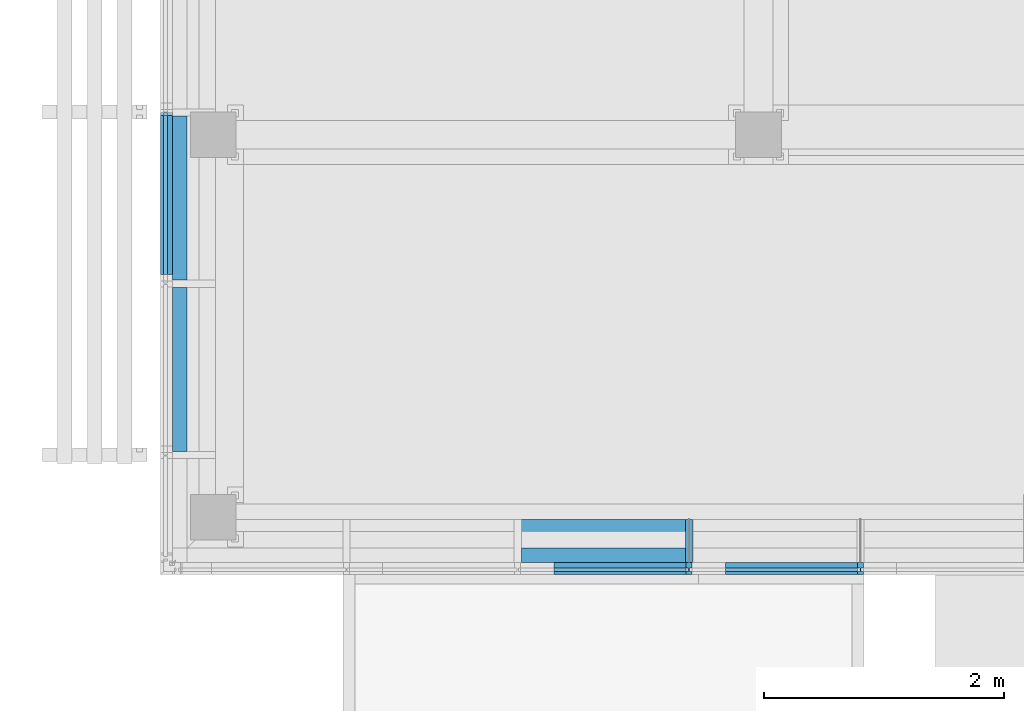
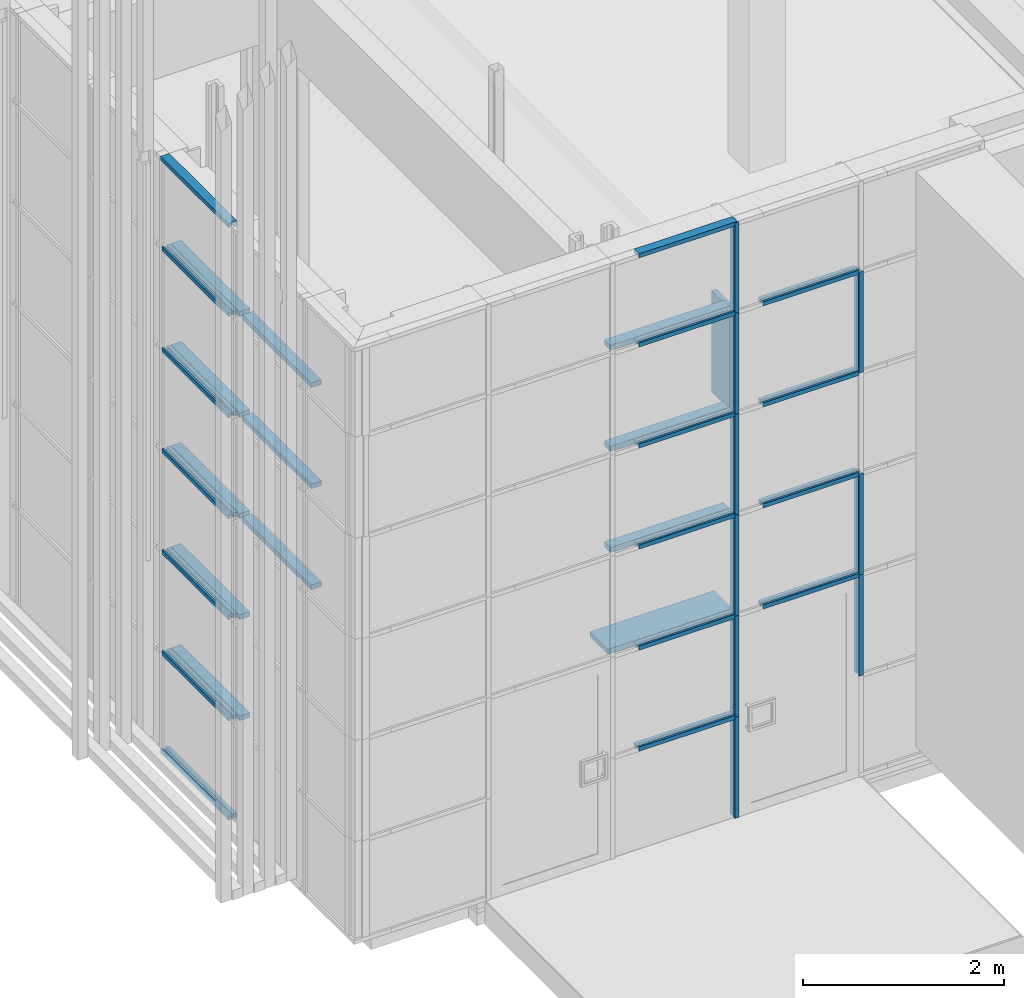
# One storey, part 9 of 260: 39 members, 2 elements without a shape of their own.
"""IFC2X3 building model written with IfcOpenShell, lengths in millimetres."""

from ifc_helpers import new_model, entity, si_unit, converted_unit, derived_unit, money_unit, direction, frame, origin_with_axes, place, context, subcontext, project, spatial, faceted_brep, source, transform, mapped, material, type_object, element, aggregate, save


model = new_model("IFC2X3")

# Units and contexts
model_context = context("Model", 3, precision=0.01, world=origin_with_axes(), true_north=direction((0.0, 1.0)))
body_context = subcontext(model_context, "Body", "Model", "MODEL_VIEW")
ifc_project = project(units=[si_unit("LENGTHUNIT", "METRE", prefix="MILLI"), si_unit("AREAUNIT", "SQUARE_METRE"), si_unit("VOLUMEUNIT", "CUBIC_METRE"), converted_unit("PLANEANGLEUNIT", "DEGREE", entity("IfcPlaneAngleMeasure", 0.0174532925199), si_unit("PLANEANGLEUNIT", "RADIAN"), dimensions=[0, 0, 0, 0, 0, 0, 0]), money_unit("EUR"), converted_unit("TIMEUNIT", "Year", entity("IfcTimeMeasure", 31556926.0), si_unit("TIMEUNIT", "SECOND"), dimensions=[0, 0, 1, 0, 0, 0, 0]), si_unit("MASSUNIT", "GRAM", prefix="KILO"), si_unit("THERMODYNAMICTEMPERATUREUNIT", "DEGREE_CELSIUS"), si_unit("LUMINOUSINTENSITYUNIT", "LUMEN"), si_unit("ENERGYUNIT", "JOULE", prefix="MEGA"), derived_unit("THERMALCONDUCTANCEUNIT", [(si_unit("POWERUNIT", "WATT"), 1), (si_unit("LENGTHUNIT", "METRE"), -1), (si_unit("THERMODYNAMICTEMPERATUREUNIT", "KELVIN"), -1)]), derived_unit("SPECIFICHEATCAPACITYUNIT", [(si_unit("ENERGYUNIT", "JOULE"), 1), (si_unit("MASSUNIT", "GRAM", prefix="KILO"), -1), (si_unit("THERMODYNAMICTEMPERATUREUNIT", "KELVIN"), -1)]), derived_unit("MASSDENSITYUNIT", [(si_unit("MASSUNIT", "GRAM", prefix="KILO"), 1), (si_unit("VOLUMEUNIT", "CUBIC_METRE"), -1)])], contexts=[model_context])

# Site, building, storey
site_placement = place(None, origin_with_axes())
site = spatial("IfcSite", under=ifc_project, at=site_placement, Name="Kolde pst 67a", CompositionType="ELEMENT")
building_placement = place(site_placement, origin_with_axes())
building = spatial("IfcBuilding", under=site, at=building_placement, Name="Riigigümnaasium", CompositionType="ELEMENT")
storey_placement = place(building_placement, origin_with_axes())
storey = spatial("IfcBuildingStorey", under=building, at=storey_placement, Name="1. korrus", CompositionType="ELEMENT", Elevation=0.0)

# Curtain wall, members
curtain_wall_type = type_object("IfcCurtainWallType", Name="Curtain Wall Type", PredefinedType="NOTDEFINED")
curtain_wall_1_placement = place(storey_placement, frame((47829.9854655, 8727.77020058, -0.000749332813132), z_axis=(0.0, 0.0, 1.0), x_axis=(1.0, 0.0, 0.0)))
curtain_wall_1 = element("IfcCurtainWall", 1, at=curtain_wall_1_placement, inside=storey, type_object=curtain_wall_type, Name="KLAASFASSAAD")
ifc_material_1 = material(Name="_METALL - alumiinium")
member_type_1 = type_object("IfcMemberType", Name="Transom Frame 50 x 100", PredefinedType="MEMBER")
shared_shape_1 = source(origin_with_axes(), body_context, "Body", "Brep", [
    faceted_brep([(5.0, -16.5, 1127.09166949), (5.0, 16.5, 1127.09166949), (25.0, 16.5, 1127.09166949), (25.0, 40.0, 1127.09166949), (-25.0, 40.0, 1127.09166949), (-25.0, 16.5, 1127.09166949), (-5.0, 16.5, 1127.09166949), (-5.0, -16.5, 1127.09166949), (-25.0, -16.5, 1127.09166949), (-25.0, -60.0, 1127.09166949), (25.0, -60.0, 1127.09166949), (25.0, -16.5, 1127.09166949), (5.0, -16.5, 25.0), (5.0, 16.5, 25.0), (25.0, 16.5, 25.0), (25.0, 40.0, 25.0), (-25.0, 40.0, 25.0), (-25.0, 16.5, 25.0), (-5.0, 16.5, 25.0), (-5.0, -16.5, 25.0), (-25.0, -16.5, 25.0), (-25.0, -60.0, 25.0), (25.0, -60.0, 25.0), (25.0, -16.5, 25.0)], [[[0, 1, 2, 3, 4, 5, 6, 7, 8, 9, 10, 11]], [[0, 12, 13, 1]], [[1, 13, 14, 2]], [[14, 15, 3, 2]], [[4, 3, 15, 16]], [[17, 5, 4, 16]], [[5, 17, 18, 6]], [[7, 6, 18, 19]], [[8, 7, 19, 20]], [[8, 20, 21, 9]], [[10, 9, 21, 22]], [[11, 10, 22, 23]], [[11, 23, 12, 0]], [[13, 12, 23, 22, 21, 20, 19, 18, 17, 16, 15, 14]]]),
])
member_1_placement = place(curtain_wall_1_placement, frame((5800.65725263, -1457.77167136, 2460.00074933), z_axis=(-1.0, 2.70881142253e-07, 0.0), x_axis=(0.0, 0.0, 1.0)))
member_1 = element("IfcMember", 2, at=member_1_placement, type_object=member_type_1, material=ifc_material_1, Name="RF RAAM HOR-669", ObjectType="MEMBER", context=body_context, shape_type="MappedRepresentation", body=[
    mapped(shared_shape_1, transform((0.0, 0.0, 0.0), x_axis=(-1.0, 0.0, 0.0), y_axis=(0.0, -1.0, 0.0), z_axis=(0.0, 0.0, 1.0))),
])
member_2_placement = place(curtain_wall_1_placement, frame((5800.65725263, -1457.77167136, 3690.00074933), z_axis=(-1.0, 2.70881142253e-07, 0.0), x_axis=(0.0, 0.0, 1.0)))
member_2 = element("IfcMember", 3, at=member_2_placement, type_object=member_type_1, material=ifc_material_1, Name="RF RAAM HOR-701", ObjectType="MEMBER", context=body_context, shape_type="MappedRepresentation", body=[
    mapped(shared_shape_1, transform((0.0, 0.0, 0.0), x_axis=(-1.0, 0.0, 0.0), y_axis=(0.0, -1.0, 0.0), z_axis=(0.0, 0.0, 1.0))),
])
member_3_placement = place(curtain_wall_1_placement, frame((4370.65725263, -1457.771284, 3690.00074933), z_axis=(-1.0, 2.70881141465e-07, 0.0), x_axis=(0.0, 0.0, 1.0)))
member_3 = element("IfcMember", 4, at=member_3_placement, type_object=member_type_1, material=ifc_material_1, Name="RF RAAM HOR-702", ObjectType="MEMBER", context=body_context, shape_type="MappedRepresentation", body=[
    mapped(shared_shape_1, transform((0.0, 0.0, 0.0), x_axis=(-1.0, 0.0, 0.0), y_axis=(0.0, -1.0, 0.0), z_axis=(0.0, 0.0, 1.0))),
])
member_4_placement = place(curtain_wall_1_placement, frame((5800.65725263, -1457.77167136, 4920.00074933), z_axis=(-1.0, 2.70881142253e-07, 0.0), x_axis=(0.0, 0.0, 1.0)))
member_4 = element("IfcMember", 5, at=member_4_placement, type_object=member_type_1, material=ifc_material_1, Name="RF RAAM HOR-682", ObjectType="MEMBER", context=body_context, shape_type="MappedRepresentation", body=[
    mapped(shared_shape_1, transform((0.0, 0.0, 0.0), x_axis=(-1.0, 0.0, 0.0), y_axis=(0.0, -1.0, 0.0), z_axis=(0.0, 0.0, 1.0))),
])
member_5_placement = place(curtain_wall_1_placement, frame((4370.65725263, -1457.771284, 4920.00074933), z_axis=(-1.0, 2.70881141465e-07, 0.0), x_axis=(0.0, 0.0, 1.0)))
member_5 = element("IfcMember", 6, at=member_5_placement, type_object=member_type_1, material=ifc_material_1, Name="RF RAAM HOR-683", ObjectType="MEMBER", context=body_context, shape_type="MappedRepresentation", body=[
    mapped(shared_shape_1, transform((0.0, 0.0, 0.0), x_axis=(-1.0, 0.0, 0.0), y_axis=(0.0, -1.0, 0.0), z_axis=(0.0, 0.0, 1.0))),
])
member_6_placement = place(curtain_wall_1_placement, frame((5800.65723132, -1457.77167136, 6150.00074933), z_axis=(-1.0, 2.70881141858e-07, 0.0), x_axis=(0.0, 0.0, 1.0)))
member_6 = element("IfcMember", 7, at=member_6_placement, type_object=member_type_1, material=ifc_material_1, Name="RF RAAM HOR-688", ObjectType="MEMBER", context=body_context, shape_type="MappedRepresentation", body=[
    mapped(shared_shape_1, transform((0.0, 0.0, 0.0), x_axis=(-1.0, 0.0, 0.0), y_axis=(0.0, -1.0, 0.0), z_axis=(0.0, 0.0, 1.0))),
])
member_7_placement = place(curtain_wall_1_placement, frame((4370.65725263, -1457.771284, 6150.00074933), z_axis=(-1.0, 2.70881141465e-07, 0.0), x_axis=(0.0, 0.0, 1.0)))
member_7 = element("IfcMember", 8, at=member_7_placement, type_object=member_type_1, material=ifc_material_1, Name="RF RAAM HOR-689", ObjectType="MEMBER", context=body_context, shape_type="MappedRepresentation", body=[
    mapped(shared_shape_1, transform((0.0, 0.0, 0.0), x_axis=(-1.0, 0.0, 0.0), y_axis=(0.0, -1.0, 0.0), z_axis=(0.0, 0.0, 1.0))),
])
shared_shape_2 = source(origin_with_axes(), body_context, "Body", "Brep", [
    faceted_brep([(5.0, -16.5, 1127.09166831), (5.0, 16.5, 1127.09166831), (25.0, 16.5, 1127.09166831), (25.0, 40.0, 1127.09166831), (-25.0, 40.0, 1127.09166831), (-25.0, 16.5, 1127.09166831), (-5.0, 16.5, 1127.09166831), (-5.0, -16.5, 1127.09166831), (-25.0, -16.5, 1127.09166831), (-25.0, -60.0, 1127.09166831), (25.0, -60.0, 1127.09166831), (25.0, -16.5, 1127.09166831), (5.0, -16.5, 25.0), (5.0, 16.5, 25.0), (25.0, 16.5, 25.0), (25.0, 40.0, 25.0), (-25.0, 40.0, 25.0), (-25.0, 16.5, 25.0), (-5.0, 16.5, 25.0), (-5.0, -16.5, 25.0), (-25.0, -16.5, 25.0), (-25.0, -60.0, 25.0), (25.0, -60.0, 25.0), (25.0, -16.5, 25.0)], [[[0, 1, 2, 3, 4, 5, 6, 7, 8, 9, 10, 11]], [[0, 12, 13, 1]], [[1, 13, 14, 2]], [[14, 15, 3, 2]], [[4, 3, 15, 16]], [[17, 5, 4, 16]], [[5, 17, 18, 6]], [[7, 6, 18, 19]], [[8, 7, 19, 20]], [[8, 20, 21, 9]], [[10, 9, 21, 22]], [[11, 10, 22, 23]], [[11, 23, 12, 0]], [[13, 12, 23, 22, 21, 20, 19, 18, 17, 16, 15, 14]]]),
])
member_8_placement = place(curtain_wall_1_placement, frame((4370.65725263, -1457.771284, 2460.00074933), z_axis=(-1.0, 2.70881141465e-07, 0.0), x_axis=(0.0, 0.0, 1.0)))
member_8 = element("IfcMember", 9, at=member_8_placement, type_object=member_type_1, material=ifc_material_1, Name="RF RAAM HOR-669", ObjectType="MEMBER", context=body_context, shape_type="MappedRepresentation", body=[
    mapped(shared_shape_2, transform((0.0, 0.0, 0.0), x_axis=(-1.0, 0.0, 0.0), y_axis=(0.0, -1.0, 0.0), z_axis=(0.0, 0.0, 1.0))),
])
member_9_placement = place(curtain_wall_1_placement, frame((4370.65725263, -1457.771284, 1230.00074933), z_axis=(-1.0, 2.70881141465e-07, 0.0), x_axis=(0.0, 0.0, 1.0)))
member_9 = element("IfcMember", 10, at=member_9_placement, type_object=member_type_1, material=ifc_material_1, Name="RF RAAM HOR-883", ObjectType="MEMBER", context=body_context, shape_type="MappedRepresentation", body=[
    mapped(shared_shape_2, transform((0.0, 0.0, 0.0), x_axis=(-1.0, 0.0, 0.0), y_axis=(0.0, -1.0, 0.0), z_axis=(0.0, 0.0, 1.0))),
])
member_type_2 = type_object("IfcMemberType", Name="Mullion Frame 50 x 100", PredefinedType="MEMBER")
shared_shape_3 = source(origin_with_axes(), body_context, "Body", "Brep", [
    faceted_brep([(5.0, -16.5, 1230.0), (5.0, 16.5, 1230.0), (25.0, 16.5, 1230.0), (25.0, 40.0, 1230.0), (-25.0, 40.0, 1230.0), (-25.0, 16.5, 1230.0), (-5.0, 16.5, 1230.0), (-5.0, -16.5, 1230.0), (-25.0, -16.5, 1230.0), (-25.0, -60.0, 1230.0), (25.0, -60.0, 1230.0), (25.0, -16.5, 1230.0), (5.0, -16.5, 0.0), (5.0, 16.5, 0.0), (25.0, 16.5, 0.0), (25.0, 40.0, 0.0), (-25.0, 40.0, 0.0), (-25.0, 16.5, 0.0), (-5.0, 16.5, 0.0), (-5.0, -16.5, 0.0), (-25.0, -16.5, 0.0), (-25.0, -60.0, 0.0), (25.0, -60.0, 0.0), (25.0, -16.5, 0.0)], [[[0, 1, 2, 3, 4, 5, 6, 7, 8, 9, 10, 11]], [[0, 12, 13, 1]], [[1, 13, 14, 2]], [[14, 15, 3, 2]], [[3, 15, 16, 4]], [[17, 5, 4, 16]], [[5, 17, 18, 6]], [[7, 6, 18, 19]], [[8, 7, 19, 20]], [[8, 20, 21, 9]], [[9, 21, 22, 10]], [[11, 10, 22, 23]], [[11, 23, 12, 0]], [[13, 12, 23, 22, 21, 20, 19, 18, 17, 16, 15, 14]]]),
])
member_10_placement = place(curtain_wall_1_placement, frame((5800.65725263, -1457.77167136, 4920.00074933), z_axis=(-1.73241352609e-08, 0.0, 1.0), x_axis=(1.0, -2.70881141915e-07, 1.73241352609e-08)))
member_10 = element("IfcMember", 11, at=member_10_placement, type_object=member_type_2, material=ifc_material_1, Name="RF RAAM VERT-878", ObjectType="MEMBER", context=body_context, shape_type="MappedRepresentation", body=[
    mapped(shared_shape_3, transform((0.0, 0.0, 0.0), x_axis=(-1.0, -2.70881141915e-07, 1.73241352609e-08), y_axis=(2.70881141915e-07, -1.0, 0.0), z_axis=(1.73241352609e-08, 0.0, 1.0))),
])
member_11_placement = place(curtain_wall_1_placement, frame((4370.65725263, -1457.771284, 4920.00074933), z_axis=(0.0, 0.0, 1.0), x_axis=(1.0, -2.70881141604e-07, 0.0)))
member_11 = element("IfcMember", 12, at=member_11_placement, type_object=member_type_2, material=ifc_material_1, Name="RF RAAM VERT-879", ObjectType="MEMBER", context=body_context, shape_type="MappedRepresentation", body=[
    mapped(shared_shape_3, transform((0.0, 0.0, 0.0), x_axis=(-1.0, -2.70881141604e-07, 0.0), y_axis=(2.70881141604e-07, -1.0, 0.0), z_axis=(0.0, 0.0, 1.0))),
])
member_12_placement = place(curtain_wall_1_placement, frame((4370.65725263, -1457.771284, 2460.00074933), z_axis=(0.0, 0.0, 1.0), x_axis=(1.0, -2.70881141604e-07, 0.0)))
member_12 = element("IfcMember", 13, at=member_12_placement, type_object=member_type_2, material=ifc_material_1, Name="RF RAAM VERT-996", ObjectType="MEMBER", context=body_context, shape_type="MappedRepresentation", body=[
    mapped(shared_shape_3, transform((0.0, 0.0, 0.0), x_axis=(-1.0, -2.70881141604e-07, 0.0), y_axis=(2.70881141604e-07, -1.0, 0.0), z_axis=(0.0, 0.0, 1.0))),
])
member_13_placement = place(curtain_wall_1_placement, frame((4370.65725263, -1457.771284, 1230.00074933), z_axis=(0.0, 0.0, 1.0), x_axis=(1.0, -2.70881141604e-07, 0.0)))
member_13 = element("IfcMember", 14, at=member_13_placement, type_object=member_type_2, material=ifc_material_1, Name="RF RAAM VERT-997", ObjectType="MEMBER", context=body_context, shape_type="MappedRepresentation", body=[
    mapped(shared_shape_3, transform((0.0, 0.0, 0.0), x_axis=(-1.0, -2.70881141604e-07, 0.0), y_axis=(2.70881141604e-07, -1.0, 0.0), z_axis=(0.0, 0.0, 1.0))),
])
member_14_placement = place(curtain_wall_1_placement, frame((4370.65725749, -1457.771284, 0.000719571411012), z_axis=(-3.9513973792e-09, 0.0, 1.0), x_axis=(1.0, -2.70881141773e-07, 3.9513973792e-09)))
member_14 = element("IfcMember", 15, at=member_14_placement, type_object=member_type_2, material=ifc_material_1, Name="RF RAAM VERT-998", ObjectType="MEMBER", context=body_context, shape_type="MappedRepresentation", body=[
    mapped(shared_shape_3, transform((0.0, 0.0, 0.0), x_axis=(-1.0, -2.70881141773e-07, 3.9513973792e-09), y_axis=(2.70881141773e-07, -1.0, 0.0), z_axis=(3.9513973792e-09, 0.0, 1.0))),
])
member_15_placement = place(curtain_wall_1_placement, frame((5800.65725263, -1457.77167136, 2460.00074933), z_axis=(0.0, 0.0, 1.0), x_axis=(1.0, -2.70881141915e-07, 0.0)))
member_15 = element("IfcMember", 16, at=member_15_placement, type_object=member_type_2, material=ifc_material_1, Name="RF RAAM VERT-999", ObjectType="MEMBER", context=body_context, shape_type="MappedRepresentation", body=[
    mapped(shared_shape_3, transform((0.0, 0.0, 0.0), x_axis=(-1.0, -2.70881141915e-07, 0.0), y_axis=(2.70881141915e-07, -1.0, 0.0), z_axis=(0.0, 0.0, 1.0))),
])
member_16_placement = place(curtain_wall_1_placement, frame((5800.65723132, -1457.77167136, 1230.00074933), z_axis=(1.73241352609e-08, 0.0, 1.0), x_axis=(1.0, -2.70881141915e-07, -1.73241352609e-08)))
member_16 = element("IfcMember", 17, at=member_16_placement, type_object=member_type_2, material=ifc_material_1, Name="RF RAAM VERT-000", ObjectType="MEMBER", context=body_context, shape_type="MappedRepresentation", body=[
    mapped(shared_shape_3, transform((0.0, 0.0, 0.0), x_axis=(-1.0, -2.70881141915e-07, -1.73241352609e-08), y_axis=(2.70881141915e-07, -1.0, 0.0), z_axis=(-1.73241352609e-08, 0.0, 1.0))),
])
member_17_placement = place(curtain_wall_1_placement, frame((4370.65725263, -1457.771284, 3690.00074933), z_axis=(0.0, 0.0, 1.0), x_axis=(1.0, -2.70881141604e-07, 0.0)))
member_17 = element("IfcMember", 18, at=member_17_placement, type_object=member_type_2, material=ifc_material_1, Name="RF RAAM VERT-003", ObjectType="MEMBER", context=body_context, shape_type="MappedRepresentation", body=[
    mapped(shared_shape_3, transform((0.0, 0.0, 0.0), x_axis=(-1.0, -2.70881141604e-07, 0.0), y_axis=(2.70881141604e-07, -1.0, 0.0), z_axis=(0.0, 0.0, 1.0))),
])
shared_shape_4 = source(origin_with_axes(), body_context, "Body", "Brep", [
    faceted_brep([(5.0, -16.5, 1327.75198335), (5.0, 16.5, 1327.75198335), (25.0, 16.5, 1327.75198335), (25.0, 40.0, 1327.75198335), (-25.0, 40.0, 1327.75198335), (-25.0, 16.5, 1327.75198335), (-5.0, 16.5, 1327.75198335), (-5.0, -16.5, 1327.75198335), (-25.0, -16.5, 1327.75198335), (-25.0, -60.0, 1327.75198335), (25.0, -60.0, 1327.75198335), (25.0, -16.5, 1327.75198335), (5.0, -16.5, 0.0), (5.0, 16.5, 0.0), (25.0, 16.5, 0.0), (25.0, 40.0, 0.0), (-25.0, 40.0, 0.0), (-25.0, 16.5, 0.0), (-5.0, 16.5, 0.0), (-5.0, -16.5, 0.0), (-25.0, -16.5, 0.0), (-25.0, -60.0, 0.0), (25.0, -60.0, 0.0), (25.0, -16.5, 0.0)], [[[0, 1, 2, 3, 4, 5, 6, 7, 8, 9, 10, 11]], [[0, 12, 13, 1]], [[1, 13, 14, 2]], [[14, 15, 3, 2]], [[3, 15, 16, 4]], [[17, 5, 4, 16]], [[5, 17, 18, 6]], [[7, 6, 18, 19]], [[8, 7, 19, 20]], [[8, 20, 21, 9]], [[9, 21, 22, 10]], [[11, 10, 22, 23]], [[11, 23, 12, 0]], [[13, 12, 23, 22, 21, 20, 19, 18, 17, 16, 15, 14]]]),
])
member_18_placement = place(curtain_wall_1_placement, frame((-9.17133036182e-07, 1006.03908467, 4920.00074933), z_axis=(-9.11615407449e-10, 1.0, 0.0), x_axis=(0.0, 0.0, 1.0)))
member_18 = element("IfcMember", 19, at=member_18_placement, type_object=member_type_1, material=ifc_material_1, Name="RF RAAM HOR-825", ObjectType="MEMBER", context=body_context, shape_type="MappedRepresentation", body=[
    mapped(shared_shape_4, transform((0.0, 0.0, 0.0), x_axis=(-1.0, 0.0, 0.0), y_axis=(0.0, -1.0, 9.11615284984e-10), z_axis=(0.0, 9.11615284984e-10, 1.0))),
])
member_19_placement = place(curtain_wall_1_placement, frame((-9.17133036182e-07, 1006.03908467, 6150.00074933), z_axis=(-9.11615407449e-10, 1.0, 0.0), x_axis=(0.0, 0.0, 1.0)))
member_19 = element("IfcMember", 20, at=member_19_placement, type_object=member_type_1, material=ifc_material_1, Name="RF RAAM HOR-826", ObjectType="MEMBER", context=body_context, shape_type="MappedRepresentation", body=[
    mapped(shared_shape_4, transform((0.0, 0.0, 0.0), x_axis=(-1.0, 0.0, 0.0), y_axis=(0.0, -1.0, 9.11615284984e-10), z_axis=(0.0, 9.11615284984e-10, 1.0))),
])
member_20_placement = place(curtain_wall_1_placement, frame((-9.17133036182e-07, 1006.03908467, 1230.00074933), z_axis=(-9.11615407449e-10, 1.0, 0.0), x_axis=(0.0, 0.0, 1.0)))
member_20 = element("IfcMember", 21, at=member_20_placement, type_object=member_type_1, material=ifc_material_1, Name="RF RAAM HOR-937", ObjectType="MEMBER", context=body_context, shape_type="MappedRepresentation", body=[
    mapped(shared_shape_4, transform((0.0, 0.0, 0.0), x_axis=(-1.0, 0.0, 0.0), y_axis=(0.0, -1.0, 9.11615284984e-10), z_axis=(0.0, 9.11615284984e-10, 1.0))),
])
member_21_placement = place(curtain_wall_1_placement, frame((-9.17133036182e-07, 1006.03908467, 2460.00074933), z_axis=(-9.11615407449e-10, 1.0, 0.0), x_axis=(0.0, 0.0, 1.0)))
member_21 = element("IfcMember", 22, at=member_21_placement, type_object=member_type_1, material=ifc_material_1, Name="RF RAAM HOR-938", ObjectType="MEMBER", context=body_context, shape_type="MappedRepresentation", body=[
    mapped(shared_shape_4, transform((0.0, 0.0, 0.0), x_axis=(-1.0, 0.0, 0.0), y_axis=(0.0, -1.0, 9.11615284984e-10), z_axis=(0.0, 9.11615284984e-10, 1.0))),
])
member_22_placement = place(curtain_wall_1_placement, frame((-9.17133036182e-07, 1006.03908467, 3690.00074933), z_axis=(-9.11615407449e-10, 1.0, 0.0), x_axis=(0.0, 0.0, 1.0)))
member_22 = element("IfcMember", 23, at=member_22_placement, type_object=member_type_1, material=ifc_material_1, Name="RF RAAM HOR-939", ObjectType="MEMBER", context=body_context, shape_type="MappedRepresentation", body=[
    mapped(shared_shape_4, transform((0.0, 0.0, 0.0), x_axis=(-1.0, 0.0, 0.0), y_axis=(0.0, -1.0, 9.11615284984e-10), z_axis=(0.0, 9.11615284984e-10, 1.0))),
])
member_type_3 = type_object("IfcMemberType", Name="Boundary Frame 50 x 100", PredefinedType="MEMBER")
shared_shape_5 = source(origin_with_axes(), body_context, "Body", "Brep", [
    faceted_brep([(-30.0, -16.5, 1352.75197298), (-50.0, -16.5, 1352.75197298), (-50.0, -60.0, 1352.75197298), (0.0, -60.0, 1352.75197298), (0.0, 40.0, 1352.75197298), (-50.0, 40.0, 1352.75197298), (-50.0, 16.5, 1352.75197298), (-30.0, 16.5, 1352.75197298), (-30.0, -16.5, 0.0), (-50.0, -16.5, 0.0), (-50.0, -60.0, 0.0), (0.0, -60.0, 0.0), (0.0, 40.0, 0.0), (-50.0, 40.0, 0.0), (-50.0, 16.5, 0.0), (-30.0, 16.5, 0.0)], [[[0, 1, 2, 3, 4, 5, 6, 7]], [[0, 8, 9, 1]], [[9, 10, 2, 1]], [[10, 11, 3, 2]], [[11, 12, 4, 3]], [[12, 13, 5, 4]], [[6, 5, 13, 14]], [[14, 15, 7, 6]], [[7, 15, 8, 0]], [[8, 15, 14, 13, 12, 11, 10, 9]]]),
])
member_23_placement = place(curtain_wall_1_placement, frame((-9.17133036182e-07, 1006.03908467, 0.0), z_axis=(-9.116153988e-10, 1.0, 0.0), x_axis=(0.0, 0.0, 1.0)))
member_23 = element("IfcMember", 24, at=member_23_placement, type_object=member_type_3, material=ifc_material_1, Name="RF RAAM SERV-555", ObjectType="MEMBER", context=body_context, shape_type="MappedRepresentation", body=[
    mapped(shared_shape_5, transform((0.0, 0.0, 0.0), x_axis=(-1.0, 0.0, 0.0), y_axis=(0.0, -1.0, 9.11615276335e-10), z_axis=(0.0, 9.11615276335e-10, 1.0))),
])
member_24_placement = place(curtain_wall_1_placement, frame((-2.15032258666e-06, 2358.79108073, 7259.99994321), z_axis=(9.11615398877e-10, -1.0, 0.0), x_axis=(0.0, 0.0, -1.0)))
member_24 = element("IfcMember", 25, at=member_24_placement, type_object=member_type_3, material=ifc_material_1, Name="RF RAAM SERV-580", ObjectType="MEMBER", context=body_context, shape_type="MappedRepresentation", body=[
    mapped(shared_shape_5, transform((0.0, 0.0, 0.0), x_axis=(-1.0, 0.0, 0.0), y_axis=(0.0, -1.0, -9.11615398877e-10), z_axis=(0.0, -9.11615398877e-10, 1.0))),
])
shared_shape_6 = source(origin_with_axes(), body_context, "Body", "Brep", [
    faceted_brep([(5.0, -16.5, 1099.99900713), (5.0, 16.5, 1099.99900713), (25.0, 16.5, 1099.99900713), (25.0, 40.0, 1099.99900713), (-25.0, 40.0, 1099.99900713), (-25.0, 16.5, 1099.99900713), (-5.0, 16.5, 1099.99900713), (-5.0, -16.5, 1099.99900713), (-25.0, -16.5, 1099.99900713), (-25.0, -60.0, 1099.99900713), (25.0, -60.0, 1099.99900713), (25.0, -16.5, 1099.99900713), (5.0, -16.5, -4.55870452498e-07), (5.0, 16.5, -4.55870452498e-07), (25.0, 16.5, -4.55870452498e-07), (25.0, 40.0, -4.55870452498e-07), (-25.0, 40.0, -4.55870452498e-07), (-25.0, 16.5, -4.55870452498e-07), (-5.0, 16.5, -4.55870452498e-07), (-5.0, -16.5, -4.55870452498e-07), (-25.0, -16.5, -4.55870452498e-07), (-25.0, -60.0, -4.55870452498e-07), (25.0, -60.0, -4.55870452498e-07), (25.0, -16.5, -4.55870452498e-07)], [[[0, 1, 2, 3, 4, 5, 6, 7, 8, 9, 10, 11]], [[0, 12, 13, 1]], [[1, 13, 14, 2]], [[14, 15, 3, 2]], [[3, 15, 16, 4]], [[17, 5, 4, 16]], [[5, 17, 18, 6]], [[7, 6, 18, 19]], [[8, 7, 19, 20]], [[8, 20, 21, 9]], [[9, 21, 22, 10]], [[11, 10, 22, 23]], [[11, 23, 12, 0]], [[13, 12, 23, 22, 21, 20, 19, 18, 17, 16, 15, 14]]]),
])
member_25_placement = place(curtain_wall_1_placement, frame((4370.65725263, -1457.771284, 6150.00074933), z_axis=(2.11074003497e-09, 0.0, 1.0), x_axis=(1.0, -2.70881141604e-07, -2.11074003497e-09)))
member_25 = element("IfcMember", 26, at=member_25_placement, type_object=member_type_2, material=ifc_material_1, Name="RF RAAM VERT-026", ObjectType="MEMBER", context=body_context, shape_type="MappedRepresentation", body=[
    mapped(shared_shape_6, transform((0.0, 0.0, 0.0), x_axis=(-1.0, -2.70881141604e-07, -2.11074003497e-09), y_axis=(2.70881141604e-07, -1.0, 0.0), z_axis=(-2.11074003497e-09, 0.0, 1.0))),
])
shared_shape_7 = source(origin_with_axes(), body_context, "Body", "Brep", [
    faceted_brep([(-30.0, -16.5, 1127.09167065), (-50.0, -16.5, 1127.09167065), (-50.0, -60.0, 1127.09167065), (0.0, -60.0, 1127.09167065), (0.0, 40.0, 1127.09167065), (-50.0, 40.0, 1127.09167065), (-50.0, 16.5, 1127.09167065), (-30.0, 16.5, 1127.09167065), (-30.0, -16.5, 0.0), (-50.0, -16.5, 0.0), (-50.0, -60.0, 0.0), (0.0, -60.0, 0.0), (0.0, 40.0, 0.0), (-50.0, 40.0, 0.0), (-50.0, 16.5, 0.0), (-30.0, 16.5, 0.0)], [[[0, 1, 2, 3, 4, 5, 6, 7]], [[0, 8, 9, 1]], [[9, 10, 2, 1]], [[10, 11, 3, 2]], [[11, 12, 4, 3]], [[12, 13, 5, 4]], [[6, 5, 13, 14]], [[14, 15, 7, 6]], [[7, 15, 8, 0]], [[8, 15, 14, 13, 12, 11, 10, 9]]]),
])
member_26_placement = place(curtain_wall_1_placement, frame((3243.56558433, -1457.7709787, 7259.99986957), z_axis=(1.0, -2.70881140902e-07, -7.69025696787e-08), x_axis=(-7.69025696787e-08, 0.0, -1.0)))
member_26 = element("IfcMember", 27, at=member_26_placement, type_object=member_type_3, material=ifc_material_1, Name="RF RAAM SERV-544", ObjectType="MEMBER", context=body_context, shape_type="MappedRepresentation", body=[
    mapped(shared_shape_7, transform((0.0, 0.0, 0.0), x_axis=(-1.0, 0.0, -7.69025696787e-08), y_axis=(0.0, -1.0, 0.0), z_axis=(-7.69025696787e-08, 0.0, 1.0))),
])
aggregate(curtain_wall_1, [member_1, member_8, member_2, member_3, member_4, member_5, member_6, member_7, member_18, member_19, member_10, member_11, member_20, member_21, member_22, member_23, member_12, member_13, member_14, member_15, member_16, member_17, member_25, member_26, member_24, member_9])

curtain_wall_2_placement = place(storey_placement, frame((47889.9854796, 7778.28071079, -0.000681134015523), z_axis=(0.0, 0.0, 1.0), x_axis=(1.0, 0.0, 0.0)))
curtain_wall_2 = element("IfcCurtainWall", 28, at=curtain_wall_2_placement, inside=storey, type_object=curtain_wall_type, Name="Klaasfassaadi puitkarkass")
ifc_material_2 = material(Name="_KANDETARIND - liimpuit vastavalt EK osale")
member_type_4 = type_object("IfcMemberType", Name="Transom Frame 60 x 120", PredefinedType="MEMBER")
shared_shape_8 = source(origin_with_axes(), body_context, "Body", "Brep", [
    faceted_brep([(-30.0, 0.0, 30.0), (-30.0, -120.0, 30.0), (-30.0, -120.0, 1400.0), (-30.0, 0.0, 1400.0), (30.0, 0.0, 30.0), (30.0, -120.0, 30.0), (30.0, -120.0, 1400.0), (30.0, 0.0, 1400.0)], [[[0, 1, 2, 3]], [[1, 0, 4, 5]], [[1, 5, 6, 2]], [[2, 6, 7, 3]], [[4, 0, 3, 7]], [[5, 4, 7, 6]]]),
])
member_27_placement = place(curtain_wall_2_placement, frame((-2.01861638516e-06, 1878.28063511, 1230.00068113), z_axis=(-1.07471327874e-09, 1.0, 0.0), x_axis=(0.0, 0.0, 1.0)))
member_27 = element("IfcMember", 29, at=member_27_placement, type_object=member_type_4, material=ifc_material_2, Name="RF RAAM HOR-249", ObjectType="MEMBER", context=body_context, shape_type="MappedRepresentation", body=[
    mapped(shared_shape_8, transform((0.0, 0.0, 0.0), x_axis=(-1.0, 0.0, 0.0), y_axis=(0.0, -1.0, 1.07471315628e-09), z_axis=(0.0, 1.07471315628e-09, 1.0))),
])
member_28_placement = place(curtain_wall_2_placement, frame((-2.01861638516e-06, 1878.28063511, 2460.00068113), z_axis=(-1.07471327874e-09, 1.0, 0.0), x_axis=(0.0, 0.0, 1.0)))
member_28 = element("IfcMember", 30, at=member_28_placement, type_object=member_type_4, material=ifc_material_2, Name="RF RAAM HOR-249", ObjectType="MEMBER", context=body_context, shape_type="MappedRepresentation", body=[
    mapped(shared_shape_8, transform((0.0, 0.0, 0.0), x_axis=(-1.0, 0.0, 0.0), y_axis=(0.0, -1.0, 1.07471315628e-09), z_axis=(0.0, 1.07471315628e-09, 1.0))),
])
member_29_placement = place(curtain_wall_2_placement, frame((-4.81769291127e-07, 448.280635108, 3690.00068113), z_axis=(-1.07471824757e-09, 1.0, 0.0), x_axis=(0.0, 0.0, 1.0)))
member_29 = element("IfcMember", 31, at=member_29_placement, type_object=member_type_4, material=ifc_material_2, Name="RF RAAM HOR-249", ObjectType="MEMBER", context=body_context, shape_type="MappedRepresentation", body=[
    mapped(shared_shape_8, transform((0.0, 0.0, 0.0), x_axis=(-1.0, 0.0, 0.0), y_axis=(0.0, -1.0, 1.07471812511e-09), z_axis=(0.0, 1.07471812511e-09, 1.0))),
])
member_30_placement = place(curtain_wall_2_placement, frame((-2.01861638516e-06, 1878.28063511, 3690.00068113), z_axis=(-1.07471327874e-09, 1.0, 0.0), x_axis=(0.0, 0.0, 1.0)))
member_30 = element("IfcMember", 32, at=member_30_placement, type_object=member_type_4, material=ifc_material_2, Name="RF RAAM HOR-249", ObjectType="MEMBER", context=body_context, shape_type="MappedRepresentation", body=[
    mapped(shared_shape_8, transform((0.0, 0.0, 0.0), x_axis=(-1.0, 0.0, 0.0), y_axis=(0.0, -1.0, 1.07471315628e-09), z_axis=(0.0, 1.07471315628e-09, 1.0))),
])
member_31_placement = place(curtain_wall_2_placement, frame((-4.81769291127e-07, 448.280635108, 4920.00068113), z_axis=(-1.07471824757e-09, 1.0, 0.0), x_axis=(0.0, 0.0, 1.0)))
member_31 = element("IfcMember", 33, at=member_31_placement, type_object=member_type_4, material=ifc_material_2, Name="RF RAAM HOR-249", ObjectType="MEMBER", context=body_context, shape_type="MappedRepresentation", body=[
    mapped(shared_shape_8, transform((0.0, 0.0, 0.0), x_axis=(-1.0, 0.0, 0.0), y_axis=(0.0, -1.0, 1.07471812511e-09), z_axis=(0.0, 1.07471812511e-09, 1.0))),
])
member_32_placement = place(curtain_wall_2_placement, frame((-2.01861638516e-06, 1878.28063511, 4920.00068113), z_axis=(-1.07471327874e-09, 1.0, 0.0), x_axis=(0.0, 0.0, 1.0)))
member_32 = element("IfcMember", 34, at=member_32_placement, type_object=member_type_4, material=ifc_material_2, Name="RF RAAM HOR-249", ObjectType="MEMBER", context=body_context, shape_type="MappedRepresentation", body=[
    mapped(shared_shape_8, transform((0.0, 0.0, 0.0), x_axis=(-1.0, 0.0, 0.0), y_axis=(0.0, -1.0, 1.07471315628e-09), z_axis=(0.0, 1.07471315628e-09, 1.0))),
])
member_33_placement = place(curtain_wall_2_placement, frame((-4.81769291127e-07, 448.280635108, 6150.00068113), z_axis=(-1.07471824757e-09, 1.0, 0.0), x_axis=(0.0, 0.0, 1.0)))
member_33 = element("IfcMember", 35, at=member_33_placement, type_object=member_type_4, material=ifc_material_2, Name="RF RAAM HOR-249", ObjectType="MEMBER", context=body_context, shape_type="MappedRepresentation", body=[
    mapped(shared_shape_8, transform((0.0, 0.0, 0.0), x_axis=(-1.0, 0.0, 0.0), y_axis=(0.0, -1.0, 1.07471812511e-09), z_axis=(0.0, 1.07471812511e-09, 1.0))),
])
member_34_placement = place(curtain_wall_2_placement, frame((-2.01861638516e-06, 1878.28063511, 6150.00068113), z_axis=(-1.07471327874e-09, 1.0, 0.0), x_axis=(0.0, 0.0, 1.0)))
member_34 = element("IfcMember", 36, at=member_34_placement, type_object=member_type_4, material=ifc_material_2, Name="RF RAAM HOR-249", ObjectType="MEMBER", context=body_context, shape_type="MappedRepresentation", body=[
    mapped(shared_shape_8, transform((0.0, 0.0, 0.0), x_axis=(-1.0, 0.0, 0.0), y_axis=(0.0, -1.0, 1.07471315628e-09), z_axis=(0.0, 1.07471315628e-09, 1.0))),
])
member_35_placement = place(curtain_wall_2_placement, frame((4310.65727801, -448.281764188, 3690.00068113), z_axis=(-1.0, 2.61927579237e-07, 0.0), x_axis=(0.0, 0.0, 1.0)))
member_35 = element("IfcMember", 37, at=member_35_placement, type_object=member_type_4, material=ifc_material_2, Name="RF RAAM HOR-249", ObjectType="MEMBER", context=body_context, shape_type="MappedRepresentation", body=[
    mapped(shared_shape_8, transform((0.0, 0.0, 0.0), x_axis=(-1.0, 0.0, 0.0), y_axis=(0.0, -1.0, 0.0), z_axis=(0.0, 0.0, 1.0))),
])
member_36_placement = place(curtain_wall_2_placement, frame((4310.65727801, -448.281764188, 4920.00068113), z_axis=(-1.0, 2.61927579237e-07, 0.0), x_axis=(0.0, 0.0, 1.0)))
member_36 = element("IfcMember", 38, at=member_36_placement, type_object=member_type_4, material=ifc_material_2, Name="RF RAAM HOR-249", ObjectType="MEMBER", context=body_context, shape_type="MappedRepresentation", body=[
    mapped(shared_shape_8, transform((0.0, 0.0, 0.0), x_axis=(-1.0, 0.0, 0.0), y_axis=(0.0, -1.0, 0.0), z_axis=(0.0, 0.0, 1.0))),
])
member_37_placement = place(curtain_wall_2_placement, frame((4310.65727801, -448.281764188, 6150.00068113), z_axis=(-1.0, 2.61927579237e-07, 0.0), x_axis=(0.0, 0.0, 1.0)))
member_37 = element("IfcMember", 39, at=member_37_placement, type_object=member_type_4, material=ifc_material_2, Name="RF RAAM HOR-249", ObjectType="MEMBER", context=body_context, shape_type="MappedRepresentation", body=[
    mapped(shared_shape_8, transform((0.0, 0.0, 0.0), x_axis=(-1.0, 0.0, 0.0), y_axis=(0.0, -1.0, 0.0), z_axis=(0.0, 0.0, 1.0))),
])
member_type_5 = type_object("IfcMemberType", Name="Mullion Frame 60 x 360", PredefinedType="MEMBER")
shared_shape_9 = source(origin_with_axes(), body_context, "Body", "Brep", [
    faceted_brep([(-30.0, -360.0, 0.0), (-30.0, -360.0, 1230.0), (-30.0, 0.0, 1230.0), (-30.0, 0.0, 0.0), (30.0, -360.0, 0.0), (30.0, -360.0, 1230.0), (30.0, 0.0, 1230.0), (30.0, 0.0, 0.0)], [[[0, 1, 2, 3]], [[4, 5, 1, 0]], [[1, 5, 6, 2]], [[3, 2, 6, 7]], [[0, 3, 7, 4]], [[7, 6, 5, 4]]]),
])
member_38_placement = place(curtain_wall_2_placement, frame((4310.65727801, -448.281764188, 4920.00068113), z_axis=(0.0, 0.0, 1.0), x_axis=(1.0, -2.61927578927e-07, 0.0)))
member_38 = element("IfcMember", 40, at=member_38_placement, type_object=member_type_5, material=ifc_material_2, Name="RF RAAM VERT-457", ObjectType="MEMBER", context=body_context, shape_type="MappedRepresentation", body=[
    mapped(shared_shape_9, transform((0.0, 0.0, 0.0), x_axis=(-1.0, -2.61927578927e-07, 0.0), y_axis=(2.61927578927e-07, -1.0, 0.0), z_axis=(0.0, 0.0, 1.0))),
])
member_type_6 = type_object("IfcMemberType", Name="Boundary Frame 60 x 360", PredefinedType="MEMBER")
shared_shape_10 = source(origin_with_axes(), body_context, "Body", "Brep", [
    faceted_brep([(-30.0, -360.0, 0.0), (-30.0, -360.0, 1430.0), (-30.0, 0.0, 1430.0), (-30.0, 0.0, 0.0), (30.0, -360.0, 0.0), (30.0, -360.0, 1430.0), (30.0, 0.0, 1430.0), (30.0, 0.0, 0.0)], [[[0, 1, 2, 3]], [[4, 5, 1, 0]], [[1, 5, 6, 2]], [[3, 2, 6, 7]], [[0, 3, 7, 4]], [[7, 6, 5, 4]]]),
])
member_39_placement = place(curtain_wall_2_placement, frame((4310.65727801, -448.281764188, 2460.00068113), z_axis=(-1.0, 2.61927579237e-07, 0.0), x_axis=(0.0, 0.0, 1.0)))
member_39 = element("IfcMember", 41, at=member_39_placement, type_object=member_type_6, material=ifc_material_2, Name="RF RAAM HOR-249", ObjectType="MEMBER", context=body_context, shape_type="MappedRepresentation", body=[
    mapped(shared_shape_10, transform((0.0, 0.0, 0.0), x_axis=(-1.0, 0.0, 0.0), y_axis=(0.0, -1.0, 0.0), z_axis=(0.0, 0.0, 1.0))),
])
aggregate(curtain_wall_2, [member_27, member_28, member_29, member_30, member_31, member_32, member_33, member_34, member_38, member_35, member_36, member_37, member_39])

save(model, "model.ifc")
